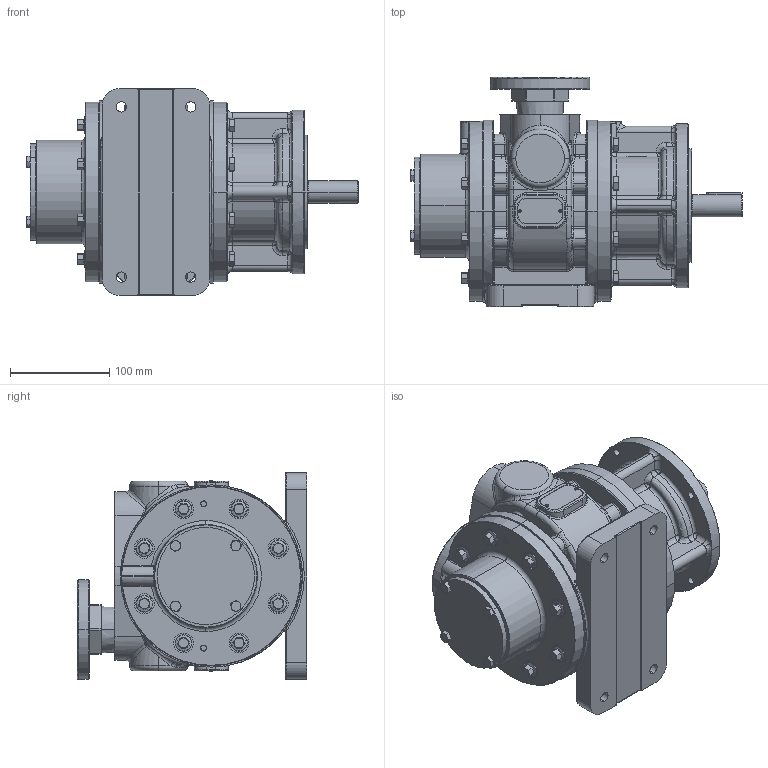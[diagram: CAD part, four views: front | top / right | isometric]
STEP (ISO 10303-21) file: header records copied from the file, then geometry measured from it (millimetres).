
FILE_DESCRIPTION (( 'STEP AP214' ), '1' );
FILE_NAME ('16VMN-Nema-SGI (22-04-26).STEP', '2026-04-23T08:23:52', ( '' ), ( '' ), 'SwSTEP 2.0', 'SolidWorks 2017', '' );
FILE_SCHEMA (( 'AUTOMOTIVE_DESIGN' ));
Length unit declared in the file: millimetre
Products named in the file (2): 16VMN-Nema-SGI (22-04-26)
Bounding box: 334.38 x 231 x 208 mm (x, y, z)
Volume: 2794334 mm3; surface area: 606899.3 mm2
Topology: 55 solids, 64 shells, 2229 faces, 5141 edges, 3007 vertices
Faces by surface type: cylinder 708, plane 608, cone 330, torus 311, bspline 218, sphere 54
Entity records: 408540 total; most frequent: CARTESIAN_POINT 206327, ORIENTED_EDGE 31274, DIRECTION 22268, EDGE_CURVE 15637, VERTEX_POINT 9985, EDGE_LOOP 8998, AXIS2_PLACEMENT_3D 8478, B_SPLINE_CURVE_WITH_KNOTS 7321
